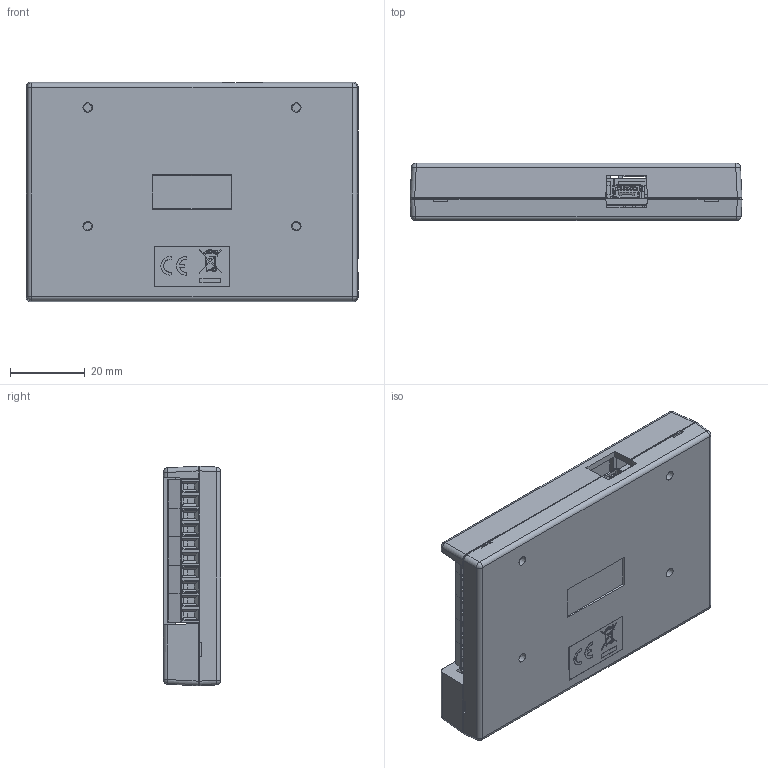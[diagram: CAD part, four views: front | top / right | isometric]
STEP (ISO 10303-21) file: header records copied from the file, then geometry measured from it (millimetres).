
FILE_DESCRIPTION(/* description */ ('Alibre Inc.'),/* implementation_level */ '2;1');
FILE_NAME(/* name */ 'export0',/* time_stamp */ '2018-08-10T12:28:30-06:00',/* author */ (''),/* organization */ (''),/* preprocessor_version */ 'ST-DEVELOPER v17',/* originating_system */ 'Alibre',/* authorisation */ '');
FILE_SCHEMA (('CONFIG_CONTROL_DESIGN'));
Length unit declared in the file: centimetre
Products named in the file (95): ID_1; ID_2; ID_3; ID_4; ID_5; ID_6; ID_7; ID_8; ID_9; ID_10; ID_11; ID_12; ID_13; ID_14; ID_15; ID_16; ID_17; ID_18; ID_19; ID_20; ID_21
Bounding box: 88.9 x 15.37 x 58.8 mm (x, y, z)
Volume: 34466 mm3; surface area: 48050.5 mm2
Topology: 66 solids, 66 shells, 3675 faces, 9724 edges, 6204 vertices
Faces by surface type: plane 2819, cylinder 679, revolution 80, cone 56, bspline 33, sphere 8
Full cylindrical faces by diameter (mm): 0.6 x11, 0.8 x5, 0.965 x24, 1.321 x20, 3.124 x4, 3.175 x4
Entity records: 53327 total; most frequent: CARTESIAN_POINT 9672, ORIENTED_EDGE 7146, DIRECTION 5958, EDGE_CURVE 3573, VECTOR 2900, LINE 2900, VERTEX_POINT 2336, AXIS2_PLACEMENT_3D 2004
